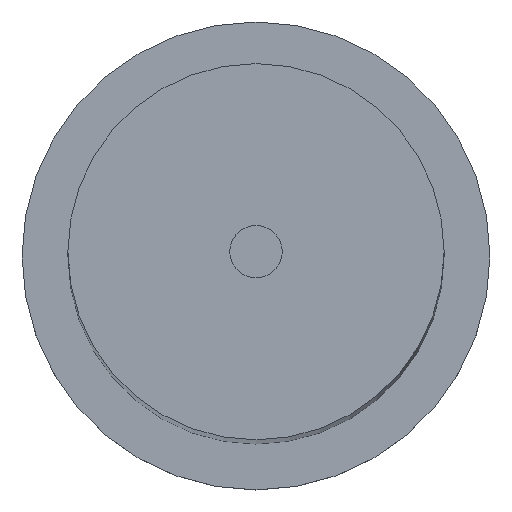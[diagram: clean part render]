
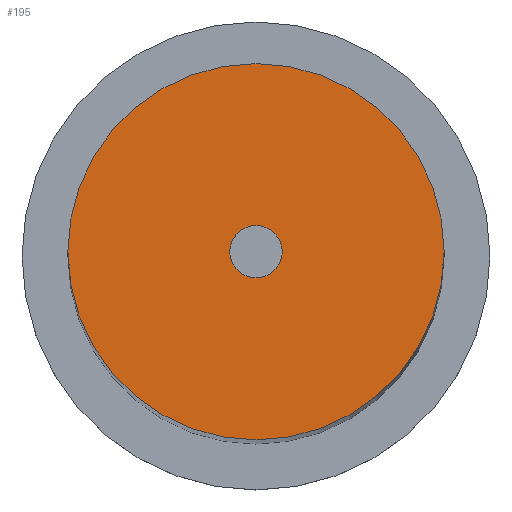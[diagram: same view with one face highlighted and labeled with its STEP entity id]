
A CAD part, top view. The second image highlights one B-rep face of the part: STEP entity #195.
In plain terms, the highlighted planar face has unit normal (0, 0, 1).
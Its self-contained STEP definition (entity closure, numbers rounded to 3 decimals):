
#129 = CYLINDRICAL_SURFACE('',#130,30.15);
#130 = AXIS2_PLACEMENT_3D('',#131,#132,#133);
#131 = CARTESIAN_POINT('',(0.,0.,-444.));
#132 = DIRECTION('',(-0.,-0.,-1.));
#133 = DIRECTION('',(1.,0.,0.));
#146 = VERTEX_POINT('',#147);
#147 = CARTESIAN_POINT('',(30.15,0.,-52.));
#168 = EDGE_CURVE('',#146,#146,#169,.T.);
#169 = SURFACE_CURVE('',#170,(#175,#182),.PCURVE_S1.);
#170 = CIRCLE('',#171,30.15);
#171 = AXIS2_PLACEMENT_3D('',#172,#173,#174);
#172 = CARTESIAN_POINT('',(0.,0.,-52.));
#173 = DIRECTION('',(0.,0.,1.));
#174 = DIRECTION('',(1.,0.,0.));
#175 = PCURVE('',#129,#176);
#176 = DEFINITIONAL_REPRESENTATION('',(#177),#181);
#177 = LINE('',#178,#179);
#178 = CARTESIAN_POINT('',(-0.,-392.));
#179 = VECTOR('',#180,1.);
#180 = DIRECTION('',(-1.,0.));
#181 = ( GEOMETRIC_REPRESENTATION_CONTEXT(2) 
PARAMETRIC_REPRESENTATION_CONTEXT() REPRESENTATION_CONTEXT('2D SPACE',''
  ) );
#182 = PCURVE('',#183,#188);
#183 = PLANE('',#184);
#184 = AXIS2_PLACEMENT_3D('',#185,#186,#187);
#185 = CARTESIAN_POINT('',(0.,0.,-52.)
  );
#186 = DIRECTION('',(0.,0.,1.));
#187 = DIRECTION('',(1.,0.,-0.));
#188 = DEFINITIONAL_REPRESENTATION('',(#189),#193);
#189 = CIRCLE('',#190,30.15);
#190 = AXIS2_PLACEMENT_2D('',#191,#192);
#191 = CARTESIAN_POINT('',(0.,0.));
#192 = DIRECTION('',(1.,0.));
#193 = ( GEOMETRIC_REPRESENTATION_CONTEXT(2) 
PARAMETRIC_REPRESENTATION_CONTEXT() REPRESENTATION_CONTEXT('2D SPACE',''
  ) );
#195 = ADVANCED_FACE('',(#196,#199),#183,.T.);
#196 = FACE_BOUND('',#197,.T.);
#197 = EDGE_LOOP('',(#198));
#198 = ORIENTED_EDGE('',*,*,#168,.T.);
#199 = FACE_BOUND('',#200,.T.);
#200 = EDGE_LOOP('',(#201));
#201 = ORIENTED_EDGE('',*,*,#202,.T.);
#202 = EDGE_CURVE('',#203,#203,#205,.T.);
#203 = VERTEX_POINT('',#204);
#204 = CARTESIAN_POINT('',(4.2,0.,-52.));
#205 = SURFACE_CURVE('',#206,(#211,#222),.PCURVE_S1.);
#206 = CIRCLE('',#207,4.2);
#207 = AXIS2_PLACEMENT_3D('',#208,#209,#210);
#208 = CARTESIAN_POINT('',(0.,0.,-52.));
#209 = DIRECTION('',(0.,0.,-1.));
#210 = DIRECTION('',(1.,0.,0.));
#211 = PCURVE('',#183,#212);
#212 = DEFINITIONAL_REPRESENTATION('',(#213),#221);
#213 = ( BOUNDED_CURVE() B_SPLINE_CURVE(2,(#214,#215,#216,#217,#218,#219
,#220),.UNSPECIFIED.,.T.,.F.) B_SPLINE_CURVE_WITH_KNOTS((1,2,2,2,2,1),(
    -2.094,0.,2.094,4.189,6.283,
8.378),.UNSPECIFIED.) CURVE() GEOMETRIC_REPRESENTATION_ITEM() 
RATIONAL_B_SPLINE_CURVE((1.,0.5,1.,0.5,1.,0.5,1.)) REPRESENTATION_ITEM(
  '') );
#214 = CARTESIAN_POINT('',(4.2,0.));
#215 = CARTESIAN_POINT('',(4.2,-7.275));
#216 = CARTESIAN_POINT('',(-2.1,-3.637));
#217 = CARTESIAN_POINT('',(-8.4,0.));
#218 = CARTESIAN_POINT('',(-2.1,3.637));
#219 = CARTESIAN_POINT('',(4.2,7.275));
#220 = CARTESIAN_POINT('',(4.2,0.));
#221 = ( GEOMETRIC_REPRESENTATION_CONTEXT(2) 
PARAMETRIC_REPRESENTATION_CONTEXT() REPRESENTATION_CONTEXT('2D SPACE',''
  ) );
#222 = PCURVE('',#223,#228);
#223 = CYLINDRICAL_SURFACE('',#224,4.2);
#224 = AXIS2_PLACEMENT_3D('',#225,#226,#227);
#225 = CARTESIAN_POINT('',(0.,0.,-59.));
#226 = DIRECTION('',(-0.,-0.,-1.));
#227 = DIRECTION('',(1.,0.,0.));
#228 = DEFINITIONAL_REPRESENTATION('',(#229),#233);
#229 = LINE('',#230,#231);
#230 = CARTESIAN_POINT('',(-6.283,-7.));
#231 = VECTOR('',#232,1.);
#232 = DIRECTION('',(1.,-0.));
#233 = ( GEOMETRIC_REPRESENTATION_CONTEXT(2) 
PARAMETRIC_REPRESENTATION_CONTEXT() REPRESENTATION_CONTEXT('2D SPACE',''
  ) );
